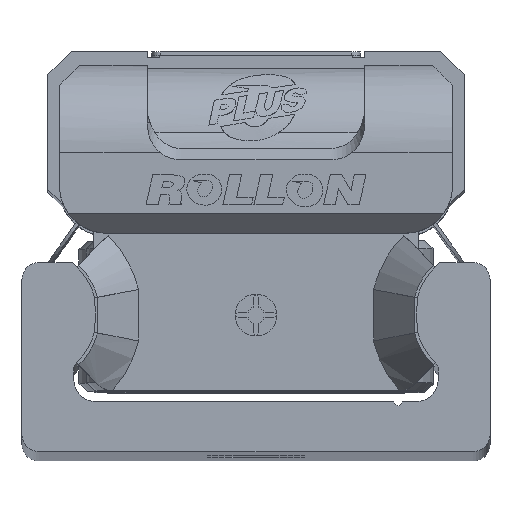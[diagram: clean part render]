
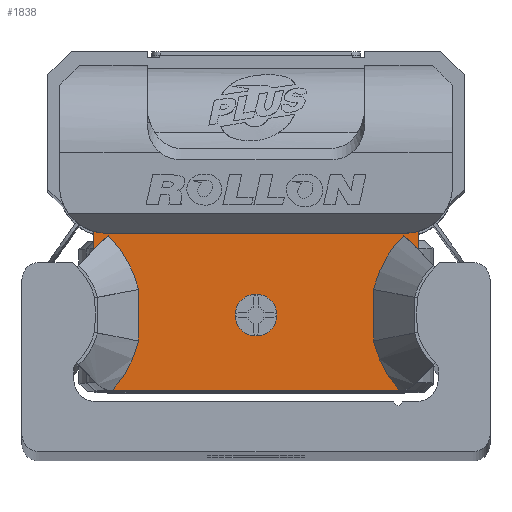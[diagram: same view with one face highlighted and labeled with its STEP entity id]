
A CAD part, top view. The second image highlights one B-rep face of the part: STEP entity #1838.
In plain terms, the highlighted planar face has unit normal (0, 0, 1) as drawn and (0, 0, -1) by its records, which use the part's own axes.
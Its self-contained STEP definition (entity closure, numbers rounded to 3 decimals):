
#1838 = ADVANCED_FACE( '', ( #3854, #3855 ), #3856, .F. );
#3854 = FACE_BOUND( '', #6054, .T. );
#3855 = FACE_OUTER_BOUND( '', #6055, .T. );
#3856 = PLANE( '', #6056 );
#6054 = EDGE_LOOP( '', ( #11053 ) );
#6055 = EDGE_LOOP( '', ( #11054, #11055, #11056, #11057, #11058, #11059, #11060, #11061, #11062, #11063, #11064, #11065, #11066, #11067 ) );
#6056 = AXIS2_PLACEMENT_3D( '', #11068, #11069, #11070 );
#11053 = ORIENTED_EDGE( '', *, *, #12652, .T. );
#11054 = ORIENTED_EDGE( '', *, *, #13088, .F. );
#11055 = ORIENTED_EDGE( '', *, *, #12849, .T. );
#11056 = ORIENTED_EDGE( '', *, *, #13603, .T. );
#11057 = ORIENTED_EDGE( '', *, *, #13932, .T. );
#11058 = ORIENTED_EDGE( '', *, *, #13543, .T. );
#11059 = ORIENTED_EDGE( '', *, *, #12194, .T. );
#11060 = ORIENTED_EDGE( '', *, *, #12631, .T. );
#11061 = ORIENTED_EDGE( '', *, *, #12778, .T. );
#11062 = ORIENTED_EDGE( '', *, *, #12980, .T. );
#11063 = ORIENTED_EDGE( '', *, *, #13869, .T. );
#11064 = ORIENTED_EDGE( '', *, *, #13816, .T. );
#11065 = ORIENTED_EDGE( '', *, *, #13785, .T. );
#11066 = ORIENTED_EDGE( '', *, *, #12923, .T. );
#11067 = ORIENTED_EDGE( '', *, *, #13933, .T. );
#11068 = CARTESIAN_POINT( '', ( 9.7, 4.89, -10.6 ) );
#11069 = DIRECTION( '', ( 0., 0., 1. ) );
#11070 = DIRECTION( '', ( 1., 0., 0. ) );
#12194 = EDGE_CURVE( '', #14568, #14566, #14569, .T. );
#12631 = EDGE_CURVE( '', #14566, #15304, #15305, .T. );
#12652 = EDGE_CURVE( '', #15334, #15334, #15335, .T. );
#12778 = EDGE_CURVE( '', #15304, #15537, #15539, .T. );
#12849 = EDGE_CURVE( '', #15652, #15650, #15653, .T. );
#12923 = EDGE_CURVE( '', #15770, #15771, #15772, .T. );
#12980 = EDGE_CURVE( '', #15537, #15402, #15862, .T. );
#13088 = EDGE_CURVE( '', #15652, #14683, #16019, .T. );
#13543 = EDGE_CURVE( '', #16660, #14568, #16661, .T. );
#13603 = EDGE_CURVE( '', #15650, #16737, #16739, .T. );
#13785 = EDGE_CURVE( '', #16947, #15770, #16948, .T. );
#13816 = EDGE_CURVE( '', #16719, #16947, #16988, .T. );
#13869 = EDGE_CURVE( '', #15402, #16719, #17046, .T. );
#13932 = EDGE_CURVE( '', #16737, #16660, #17111, .T. );
#13933 = EDGE_CURVE( '', #15771, #14683, #17112, .T. );
#14566 = VERTEX_POINT( '', #17977 );
#14568 = VERTEX_POINT( '', #17980 );
#14569 = LINE( '', #17981, #17982 );
#14683 = VERTEX_POINT( '', #18140 );
#15304 = VERTEX_POINT( '', #19016 );
#15305 = B_SPLINE_CURVE_WITH_KNOTS( '', 2, ( #19017, #19018, #19019, #19020, #19021 ), .UNSPECIFIED., .F., .F., ( 3, 2, 3 ), ( 0., 0.5, 1. ), .UNSPECIFIED. );
#15334 = VERTEX_POINT( '', #19063 );
#15335 = CIRCLE( '', #19064, 1.25 );
#15402 = VERTEX_POINT( '', #19159 );
#15537 = VERTEX_POINT( '', #19357 );
#15539 = B_SPLINE_CURVE_WITH_KNOTS( '', 2, ( #19360, #19361, #19362 ), .UNSPECIFIED., .F., .F., ( 3, 3 ), ( 0., 1. ), .UNSPECIFIED. );
#15650 = VERTEX_POINT( '', #19511 );
#15652 = VERTEX_POINT( '', #19514 );
#15653 = CIRCLE( '', #19515, 2.8 );
#15770 = VERTEX_POINT( '', #19657 );
#15771 = VERTEX_POINT( '', #19658 );
#15772 = B_SPLINE_CURVE_WITH_KNOTS( '', 2, ( #19659, #19660, #19661 ), .UNSPECIFIED., .F., .F., ( 3, 3 ), ( 0., 1. ), .UNSPECIFIED. );
#15862 = B_SPLINE_CURVE_WITH_KNOTS( '', 2, ( #19788, #19789, #19790 ), .UNSPECIFIED., .F., .F., ( 3, 3 ), ( 0., 1. ), .UNSPECIFIED. );
#16019 = LINE( '', #20035, #20036 );
#16660 = VERTEX_POINT( '', #21012 );
#16661 = LINE( '', #21013, #21014 );
#16719 = VERTEX_POINT( '', #21111 );
#16737 = VERTEX_POINT( '', #21137 );
#16739 = LINE( '', #21140, #21141 );
#16947 = VERTEX_POINT( '', #21439 );
#16948 = B_SPLINE_CURVE_WITH_KNOTS( '', 2, ( #21440, #21441, #21442 ), .UNSPECIFIED., .F., .F., ( 3, 3 ), ( 0., 1. ), .UNSPECIFIED. );
#16988 = B_SPLINE_CURVE_WITH_KNOTS( '', 2, ( #21498, #21499, #21500 ), .UNSPECIFIED., .F., .F., ( 3, 3 ), ( 0.1, 1. ), .UNSPECIFIED. );
#17046 = LINE( '', #21590, #21591 );
#17111 = CIRCLE( '', #21676, 2.8 );
#17112 = LINE( '', #21677, #21678 );
#17977 = CARTESIAN_POINT( '', ( 8.853, 4.366, -10.6 ) );
#17980 = CARTESIAN_POINT( '', ( 9.7, 3.497, -10.6 ) );
#17981 = CARTESIAN_POINT( '', ( 9.7, 3.501, -10.6 ) );
#17982 = VECTOR( '', #22237, 1000. );
#18140 = CARTESIAN_POINT( '', ( -9.7, 3.494, -10.6 ) );
#19016 = CARTESIAN_POINT( '', ( 7.031, 1.144, -10.6 ) );
#19017 = CARTESIAN_POINT( '', ( 8.853, 4.366, -10.6 ) );
#19018 = CARTESIAN_POINT( '', ( 8.182, 3.708, -10.6 ) );
#19019 = CARTESIAN_POINT( '', ( 7.715, 2.883, -10.6 ) );
#19020 = CARTESIAN_POINT( '', ( 7.249, 2.058, -10.6 ) );
#19021 = CARTESIAN_POINT( '', ( 7.031, 1.144, -10.6 ) );
#19063 = CARTESIAN_POINT( '', ( 1.25, -0.39, -10.6 ) );
#19064 = AXIS2_PLACEMENT_3D( '', #22839, #22840, #22841 );
#19159 = CARTESIAN_POINT( '', ( 8.59, -4.893, -10.6 ) );
#19357 = CARTESIAN_POINT( '', ( 7.031, -1.944, -10.6 ) );
#19360 = CARTESIAN_POINT( '', ( 7.031, 1.144, -10.6 ) );
#19361 = CARTESIAN_POINT( '', ( 6.929, -0.4, -10.6 ) );
#19362 = CARTESIAN_POINT( '', ( 7.031, -1.944, -10.6 ) );
#19511 = CARTESIAN_POINT( '', ( -8.95, 4.51, -10.6 ) );
#19514 = CARTESIAN_POINT( '', ( -9.7, 4.612, -10.6 ) );
#19515 = AXIS2_PLACEMENT_3D( '', #23107, #23108, #23109 );
#19657 = CARTESIAN_POINT( '', ( -7.031, 1.144, -10.6 ) );
#19658 = CARTESIAN_POINT( '', ( -8.853, 4.366, -10.6 ) );
#19659 = CARTESIAN_POINT( '', ( -7.031, 1.144, -10.6 ) );
#19660 = CARTESIAN_POINT( '', ( -7.477, 3.018, -10.6 ) );
#19661 = CARTESIAN_POINT( '', ( -8.853, 4.366, -10.6 ) );
#19788 = CARTESIAN_POINT( '', ( 7.031, -1.944, -10.6 ) );
#19789 = CARTESIAN_POINT( '', ( 7.429, -3.615, -10.6 ) );
#19790 = CARTESIAN_POINT( '', ( 8.588, -4.89, -10.6 ) );
#20035 = CARTESIAN_POINT( '', ( -9.7, 4.89, -10.6 ) );
#20036 = VECTOR( '', #23412, 1000. );
#21012 = CARTESIAN_POINT( '', ( 9.7, 4.612, -10.6 ) );
#21013 = CARTESIAN_POINT( '', ( 9.7, 4.89, -10.6 ) );
#21014 = VECTOR( '', #24051, 1000. );
#21111 = CARTESIAN_POINT( '', ( -8.59, -4.893, -10.6 ) );
#21137 = CARTESIAN_POINT( '', ( 8.95, 4.51, -10.6 ) );
#21140 = CARTESIAN_POINT( '', ( 9.7, 4.51, -10.6 ) );
#21141 = VECTOR( '', #24103, 1000. );
#21439 = CARTESIAN_POINT( '', ( -7.031, -1.944, -10.6 ) );
#21440 = CARTESIAN_POINT( '', ( -7.031, -1.944, -10.6 ) );
#21441 = CARTESIAN_POINT( '', ( -6.929, -0.4, -10.6 ) );
#21442 = CARTESIAN_POINT( '', ( -7.031, 1.144, -10.6 ) );
#21498 = CARTESIAN_POINT( '', ( -8.587, -4.89, -10.6 ) );
#21499 = CARTESIAN_POINT( '', ( -7.432, -3.63, -10.6 ) );
#21500 = CARTESIAN_POINT( '', ( -7.031, -1.944, -10.6 ) );
#21590 = CARTESIAN_POINT( '', ( 9.7, -4.89, -10.6 ) );
#21591 = VECTOR( '', #24315, 1000. );
#21676 = AXIS2_PLACEMENT_3D( '', #24351, #24352, #24353 );
#21677 = CARTESIAN_POINT( '', ( -8.853, 4.366, -10.6 ) );
#21678 = VECTOR( '', #24354, 1000. );
#22237 = DIRECTION( '', ( -0.7, 0.714, 0. ) );
#22839 = CARTESIAN_POINT( '', ( 0., -0.39, -10.6 ) );
#22840 = DIRECTION( '', ( 0., 0., 1. ) );
#22841 = DIRECTION( '', ( 1., 0., 0. ) );
#23107 = CARTESIAN_POINT( '', ( -8.95, 7.31, -10.6 ) );
#23108 = DIRECTION( '', ( 0., 0., 1. ) );
#23109 = DIRECTION( '', ( 1., 0., 0. ) );
#23412 = DIRECTION( '', ( 0., -1., 0. ) );
#24051 = DIRECTION( '', ( 0., -1., 0. ) );
#24103 = DIRECTION( '', ( 1., 0., 0. ) );
#24315 = DIRECTION( '', ( -1., 0., 0. ) );
#24351 = CARTESIAN_POINT( '', ( 8.95, 7.31, -10.6 ) );
#24352 = DIRECTION( '', ( 0., 0., 1. ) );
#24353 = DIRECTION( '', ( 1., 0., 0. ) );
#24354 = DIRECTION( '', ( -0.7, -0.714, 0. ) );
